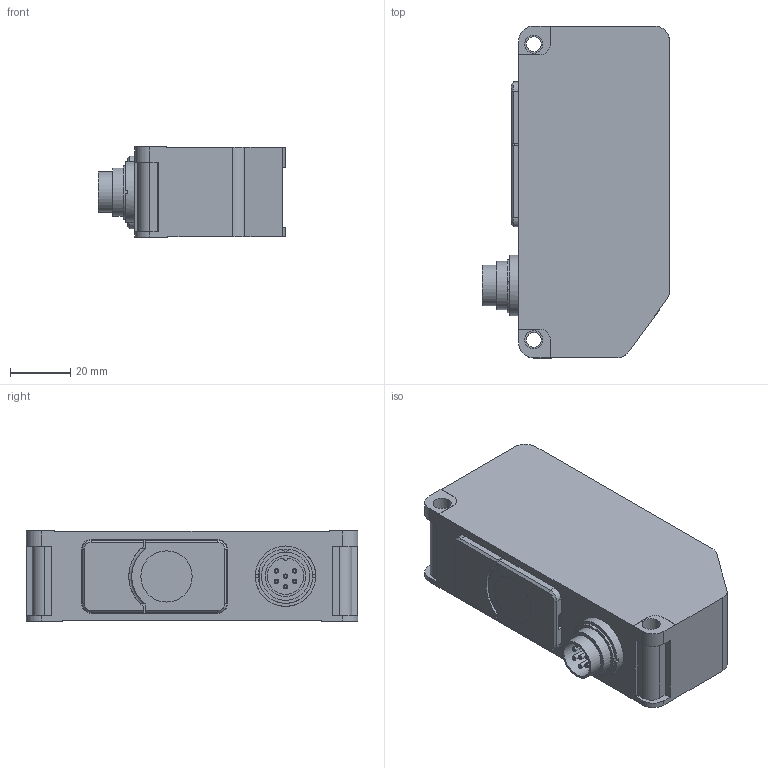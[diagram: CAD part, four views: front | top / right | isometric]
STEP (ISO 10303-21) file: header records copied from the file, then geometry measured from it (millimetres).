
FILE_DESCRIPTION( ( 'Unknown' ), '1' );
FILE_NAME( '//baumernet.org/ch01apps/SolidEdge/Models/Dokumentationen/Opto/ScatecLC_1_3/Vereinfachte Modelle/Neutralformate/Scatec_S42.stp', 'Unknown', ( 'Unknown' ), ( 'Unknown' ), 'PSStep 10.0', 'Unknown', ' ' );
FILE_SCHEMA( ( 'AUTOMOTIVE_DESIGN { 1 0 10303 214 1 1 1 1 }' ) );
Length unit declared in the file: millimetre
Products named in the file (1): 146262
Bounding box: 62 x 110 x 29.9 mm (x, y, z)
Volume: 156882.4 mm3; surface area: 24390.7 mm2
Topology: 1 solids, 3 shells, 233 faces, 588 edges, 388 vertices
Faces by surface type: plane 157, cylinder 61, torus 8, cone 7
Full cylindrical faces by diameter (mm): 1.5 x6, 1.8 x6, 4.917 x2, 6 x4, 13.5 x1, 15 x1, 16 x1, 17 x2, 20 x1
Entity records: 8053 total; most frequent: CARTESIAN_POINT 1182, DIRECTION 1151, ORIENTED_EDGE 1086, EDGE_CURVE 543, LINE 391, VECTOR 391, AXIS2_PLACEMENT_3D 380, VERTEX_POINT 375
